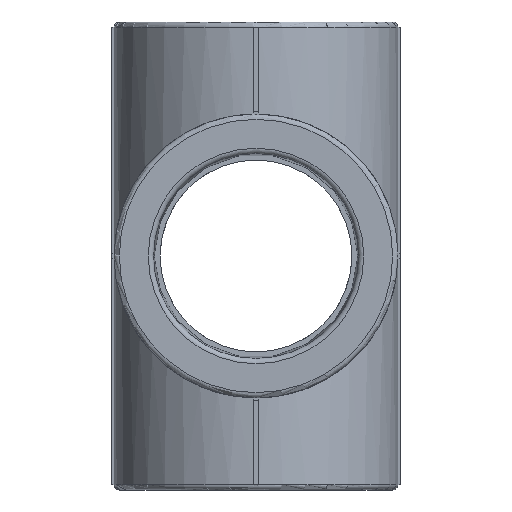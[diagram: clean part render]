
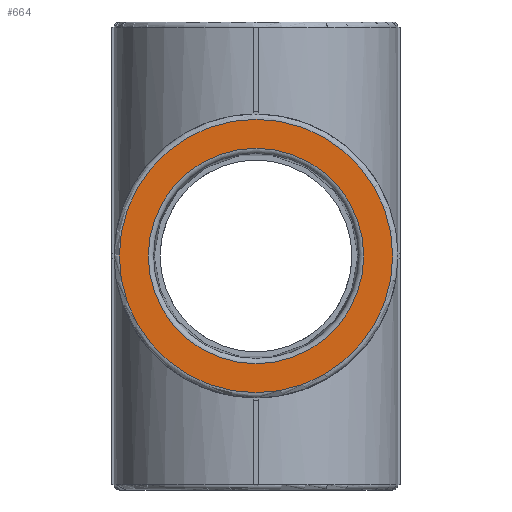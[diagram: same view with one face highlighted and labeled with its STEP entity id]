
A CAD part, front view. The second image highlights one B-rep face of the part: STEP entity #664.
In plain terms, the highlighted planar face has unit normal (0, -1, 0).
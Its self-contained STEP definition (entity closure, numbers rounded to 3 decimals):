
#664=ADVANCED_FACE('',(#5221,#5223),#5225,.F.);
#5221=FACE_BOUND('',#5222,.T.);
#5222=EDGE_LOOP('',(#12863));
#5223=FACE_BOUND('',#5224,.T.);
#5224=EDGE_LOOP('',(#12864));
#5225=PLANE('',#5226);
#5226=AXIS2_PLACEMENT_3D('',#5227,#5228,#5229);
#5227=CARTESIAN_POINT('',(0.,-44.5,0.));
#5228=DIRECTION('',(0.,1.,0.));
#5229=DIRECTION('',(-1.,0.,0.));
#12863=ORIENTED_EDGE('',*,*,#17993,.F.);
#12864=ORIENTED_EDGE('',*,*,#18059,.T.);
#17993=EDGE_CURVE('',#22433,#22433,#22434,.T.);
#18059=EDGE_CURVE('',#22541,#22541,#22542,.T.);
#22433=VERTEX_POINT('',#33722);
#22434=CIRCLE('',#33723,26.);
#22541=VERTEX_POINT('',#33984);
#22542=CIRCLE('',#33985,20.49);
#33722=CARTESIAN_POINT('',(-26.,-44.5,0.));
#33723=AXIS2_PLACEMENT_3D('',#33724,#33725,#33726);
#33724=CARTESIAN_POINT('',(0.,-44.5,0.));
#33725=DIRECTION('',(0.,1.,0.));
#33726=DIRECTION('',(-1.,0.,0.));
#33984=CARTESIAN_POINT('',(-20.49,-44.5,0.));
#33985=AXIS2_PLACEMENT_3D('',#33986,#33987,#33988);
#33986=CARTESIAN_POINT('',(0.,-44.5,0.));
#33987=DIRECTION('',(0.,1.,0.));
#33988=DIRECTION('',(-1.,0.,0.));
